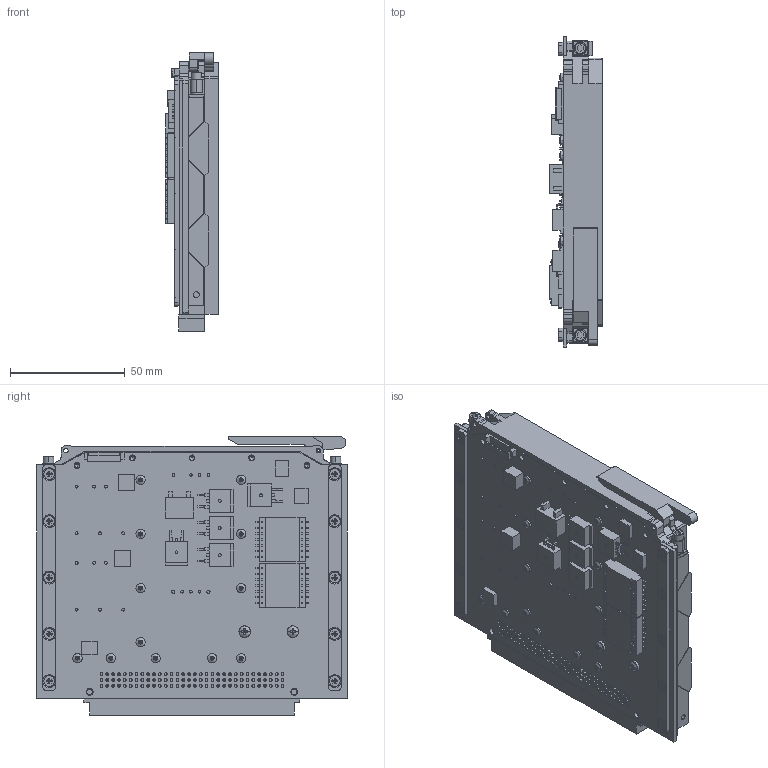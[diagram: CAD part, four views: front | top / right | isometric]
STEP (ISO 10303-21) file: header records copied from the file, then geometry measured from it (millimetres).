
FILE_DESCRIPTION (( 'STEP AP203' ), '1' );
FILE_NAME ('GIL-CM-D10P.STEP', '2016-10-22T15:21:06', ( 'gregory' ), ( '' ), 'SwSTEP 2.0', 'SolidWorks 2011', '' );
FILE_SCHEMA (( 'CONFIG_CONTROL_DESIGN' ));
Products named in the file (1): GIL-CM-D10P
Bounding box: 22.95 x 135 x 120.96 mm (x, y, z)
Volume: 251517.3 mm3; surface area: 94469.5 mm2
Topology: 40 solids, 40 shells, 3852 faces, 9361 edges, 5904 vertices
Faces by surface type: plane 2892, cylinder 720, cone 152, bspline 76, torus 8, sphere 4
Entity records: 112358 total; most frequent: CARTESIAN_POINT 20890, ORIENTED_EDGE 18678, DIRECTION 18423, EDGE_CURVE 9339, LINE 7373, VECTOR 7373, VERTEX_POINT 5904, AXIS2_PLACEMENT_3D 5525
